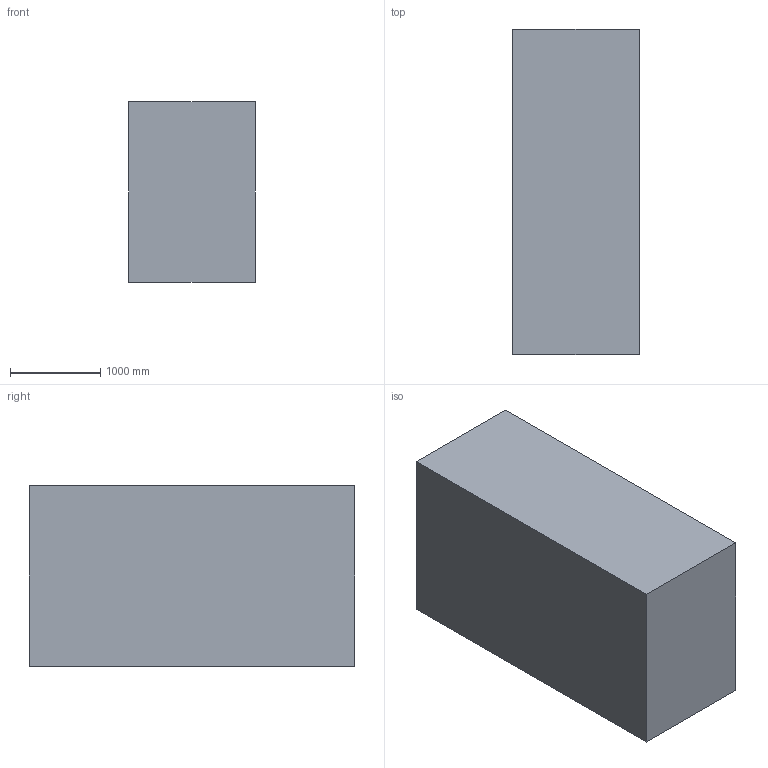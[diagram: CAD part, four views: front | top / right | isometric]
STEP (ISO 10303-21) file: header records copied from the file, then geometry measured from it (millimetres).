
FILE_DESCRIPTION (( 'STEP AP203' ), '1' );
FILE_NAME ('CL_01_Hex_Composite_Chassis.STEP', '2026-10-28T18:33:43', ( '' ), ( '' ), 'SwSTEP 2.0', 'SolidWorks 2026', '' );
FILE_SCHEMA (( 'CONFIG_CONTROL_DESIGN' ));
Length unit declared in the file: inch
Products named in the file (1): CL_01_Hex_Composite_Chassis
Bounding box: 1400 x 3600 x 2000 mm (x, y, z)
Volume: 10080000000 mm3; surface area: 30080000 mm2
Topology: 1 solids, 1 shells, 6 faces, 12 edges, 8 vertices
Faces by surface type: plane 6
Entity records: 235 total; most frequent: CARTESIAN_POINT 27, DIRECTION 26, ORIENTED_EDGE 24, EDGE_CURVE 12, VECTOR 12, LINE 12, PERSON_AND_ORGANIZATION 8, VERTEX_POINT 8
